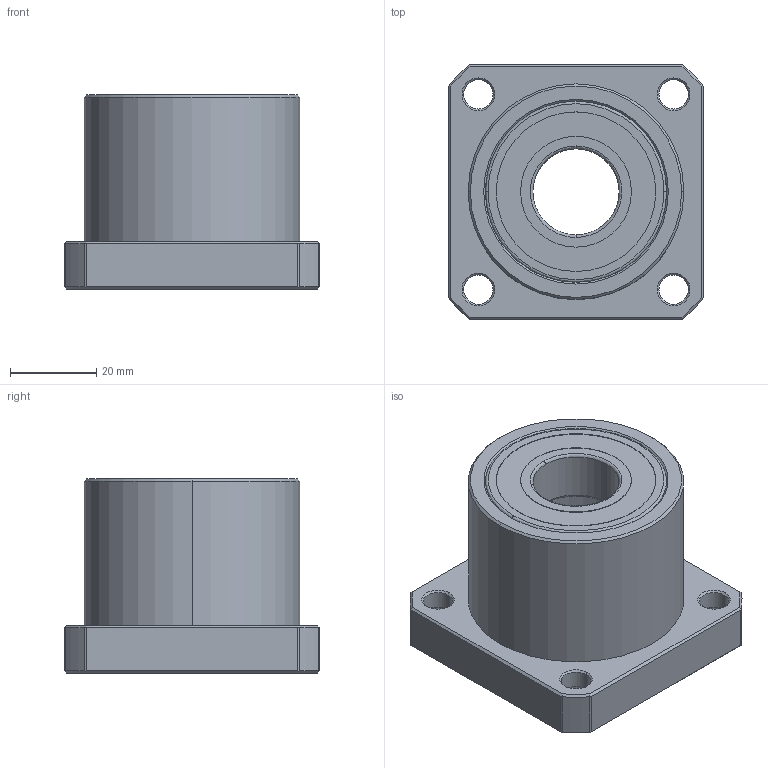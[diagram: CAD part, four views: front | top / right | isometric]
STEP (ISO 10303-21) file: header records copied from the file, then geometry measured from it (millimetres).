
FILE_DESCRIPTION (( 'STEP AP203' ), '1' );
FILE_NAME ('SBD20.STEP', '2009-05-27T08:08:54', ( '冠犁泅' ), ( '俺惯何' ), 'SwSTEP 2.0', 'SolidWorks 2007', '' );
FILE_SCHEMA (( 'CONFIG_CONTROL_DESIGN' ));
Length unit declared in the file: millimetre
Products named in the file (3): SBD20_HOUSING_ル遽; 6004zz_ル遽; SBD20
Assembly tree (3 placements, depth 2):
  SBD20
    6004zz_ル遽  x2
    SBD20_HOUSING_ル遽
Bounding box: 59 x 59 x 45 mm (x, y, z)
Volume: 46695.4 mm3; surface area: 37663 mm2
Topology: 1 solids, 31 shells, 243 faces, 600 edges, 346 vertices
Faces by surface type: cylinder 84, bspline 76, plane 49, cone 34
Entity records: 6960 total; most frequent: CARTESIAN_POINT 3014, DIRECTION 778, ORIENTED_EDGE 716, EDGE_CURVE 366, AXIS2_PLACEMENT_3D 326, VERTEX_POINT 242, EDGE_LOOP 196, CIRCLE 190
